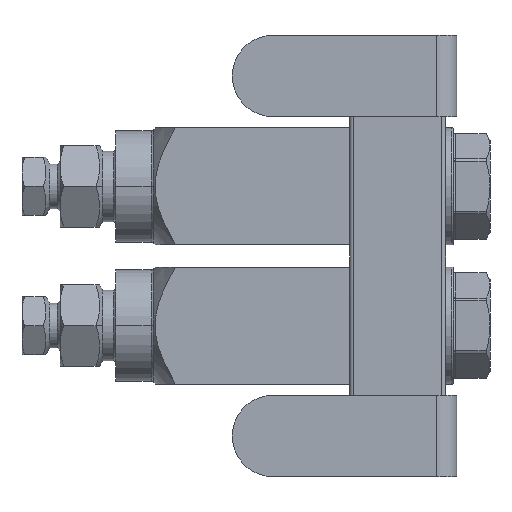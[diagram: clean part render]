
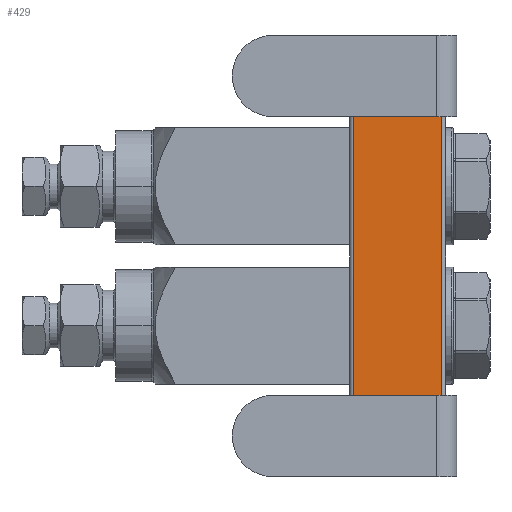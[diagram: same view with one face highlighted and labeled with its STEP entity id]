
A CAD part, left-side view. The second image highlights one B-rep face of the part: STEP entity #429.
In plain terms, the highlighted planar face has unit normal (-1, 0, 0).
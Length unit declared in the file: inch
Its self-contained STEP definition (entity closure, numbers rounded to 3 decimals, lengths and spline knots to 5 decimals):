
#52=CARTESIAN_POINT('',(-0.35,-0.239,-1.54361));
#59=CARTESIAN_POINT('',(-0.35,0.239,-1.54361));
#68=CARTESIAN_POINT('',(-0.35,0.239,-1.54361));
#69=CARTESIAN_POINT('',(-0.35,0.22,-1.54648));
#70=CARTESIAN_POINT('',(-0.35,0.1828,-1.55163));
#71=CARTESIAN_POINT('',(-0.35,0.13047,-1.55737));
#72=CARTESIAN_POINT('',(-0.35,0.07844,-1.56139));
#73=CARTESIAN_POINT('',(-0.35,0.02624,-1.56348));
#74=CARTESIAN_POINT('',(-0.35,-0.02624,-1.56348));
#75=CARTESIAN_POINT('',(-0.35,-0.07843,-1.56139));
#76=CARTESIAN_POINT('',(-0.35,-0.13047,-1.55737));
#77=CARTESIAN_POINT('',(-0.35,-0.18279,-1.55163));
#78=CARTESIAN_POINT('',(-0.35,-0.21999,-1.54648));
#79=CARTESIAN_POINT('',(-0.35,-0.239,-1.54361));
#125=DIRECTION('',(0.,0.,-1.));
#126=VECTOR('',#125,2.33723);
#127=CARTESIAN_POINT('',(-0.35,-0.239,0.79361));
#128=LINE('',#127,#126);
#129=DIRECTION('',(0.,0.,-1.));
#130=VECTOR('',#129,2.33723);
#131=CARTESIAN_POINT('',(-0.35,0.239,0.79361));
#132=LINE('',#131,#130);
#214=CARTESIAN_POINT('',(-0.35,-0.239,0.79361));
#215=CARTESIAN_POINT('',(-0.35,-0.21999,0.79648));
#216=CARTESIAN_POINT('',(-0.35,-0.18279,0.80163));
#217=CARTESIAN_POINT('',(-0.35,-0.13047,0.80737));
#218=CARTESIAN_POINT('',(-0.35,-0.07843,0.81139));
#219=CARTESIAN_POINT('',(-0.35,-0.02624,0.81348));
#220=CARTESIAN_POINT('',(-0.35,0.02624,0.81348));
#221=CARTESIAN_POINT('',(-0.35,0.07844,0.81139));
#222=CARTESIAN_POINT('',(-0.35,0.13047,0.80737));
#223=CARTESIAN_POINT('',(-0.35,0.1828,0.80163));
#224=CARTESIAN_POINT('',(-0.35,0.22,0.79648));
#225=CARTESIAN_POINT('',(-0.35,0.239,0.79361));
#234=CARTESIAN_POINT('',(-0.35,0.239,0.79361));
#276=VERTEX_POINT('',#52);
#277=CARTESIAN_POINT('',(-0.35,-0.239,0.79361));
#278=VERTEX_POINT('',#277);
#280=VERTEX_POINT('',#59);
#284=VERTEX_POINT('',#234);
#416=CARTESIAN_POINT('',(-0.35,0.259,-1.565));
#417=DIRECTION('',(-1.,0.,0.));
#418=DIRECTION('',(0.,-1.,0.));
#419=AXIS2_PLACEMENT_3D('',#416,#417,#418);
#420=PLANE('',#419);
#421=ORIENTED_EDGE('',*,*,#408,.T.);
#422=ORIENTED_EDGE('',*,*,#334,.F.);
#424=ORIENTED_EDGE('',*,*,#423,.F.);
#426=ORIENTED_EDGE('',*,*,#425,.F.);
#427=EDGE_LOOP('',(#421,#422,#424,#426));
#428=FACE_OUTER_BOUND('',#427,.F.);
#429=ADVANCED_FACE('',(#428),#420,.T.);
#80=B_SPLINE_CURVE_WITH_KNOTS('',3,(#68,#69,#70,#71,#72,#73,#74,#75,#76,#77,#78,
#79),.UNSPECIFIED.,.F.,.F.,(4,1,1,1,1,1,1,1,1,4),(0.,0.11111,
0.22222,0.33333,0.44444,0.55556,
0.66667,0.77778,0.88889,1.),.UNSPECIFIED.);
#226=B_SPLINE_CURVE_WITH_KNOTS('',3,(#214,#215,#216,#217,#218,#219,#220,#221,
#222,#223,#224,#225),.UNSPECIFIED.,.F.,.F.,(4,1,1,1,1,1,1,1,1,4),(0.,
0.11111,0.22222,0.33333,0.44444,
0.55556,0.66667,0.77778,0.88889,1.),
.UNSPECIFIED.);
#334=EDGE_CURVE('',#280,#276,#80,.T.);
#408=EDGE_CURVE('',#278,#276,#128,.T.);
#423=EDGE_CURVE('',#284,#280,#132,.T.);
#425=EDGE_CURVE('',#278,#284,#226,.T.);
